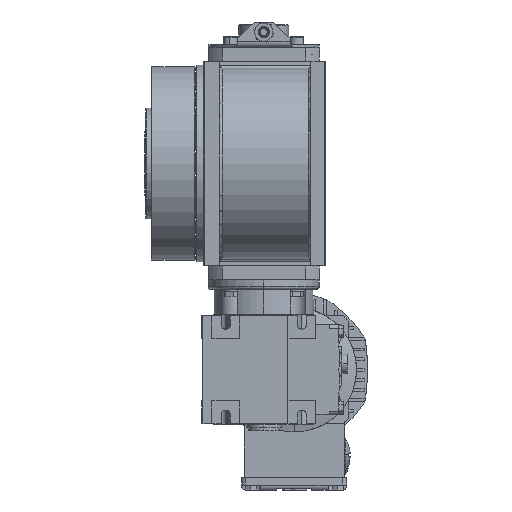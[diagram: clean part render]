
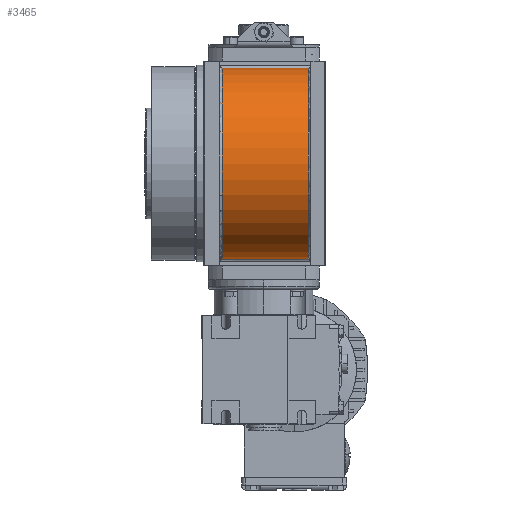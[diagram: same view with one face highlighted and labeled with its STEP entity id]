
A CAD part, left-side view. The second image highlights one B-rep face of the part: STEP entity #3465.
In plain terms, the highlighted cylindrical face has radius 69 mm (diameter 138 mm), a partial arc.
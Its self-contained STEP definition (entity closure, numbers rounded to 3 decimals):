
#2107 = LINE ( 'NONE', #64636, #25515 ) ;
#2427 = DIRECTION ( 'NONE',  ( 0., -1., 0. ) ) ;
#3465 = ADVANCED_FACE ( 'NONE', ( #12617 ), #57834, .T. ) ;
#3887 = EDGE_CURVE ( 'NONE', #22255, #25304, #61269, .T. ) ;
#4184 = ORIENTED_EDGE ( 'NONE', *, *, #65680, .T. ) ;
#4396 = CARTESIAN_POINT ( 'NONE',  ( -3.887, 66., 68.89 ) ) ;
#6186 = EDGE_LOOP ( 'NONE', ( #17285, #51519, #25078, #4184 ) ) ;
#9503 = VERTEX_POINT ( 'NONE', #41780 ) ;
#12617 = FACE_OUTER_BOUND ( 'NONE', #6186, .T. ) ;
#13724 = DIRECTION ( 'NONE',  ( 0., -1., 0. ) ) ;
#14814 = CARTESIAN_POINT ( 'NONE',  ( 0., 66., 0. ) ) ;
#17285 = ORIENTED_EDGE ( 'NONE', *, *, #3887, .T. ) ;
#17984 = AXIS2_PLACEMENT_3D ( 'NONE', #34683, #2427, #40579 ) ;
#20696 = CARTESIAN_POINT ( 'NONE',  ( -3.887, 2., -68.89 ) ) ;
#22091 = VECTOR ( 'NONE', #55520, 1000. ) ;
#22255 = VERTEX_POINT ( 'NONE', #20696 ) ;
#22377 = CARTESIAN_POINT ( 'NONE',  ( -3.887, 64., 68.89 ) ) ;
#25078 = ORIENTED_EDGE ( 'NONE', *, *, #62505, .T. ) ;
#25304 = VERTEX_POINT ( 'NONE', #33983 ) ;
#25515 = VECTOR ( 'NONE', #52149, 1000. ) ;
#27512 = CIRCLE ( 'NONE', #17984, 69. ) ;
#30595 = AXIS2_PLACEMENT_3D ( 'NONE', #34607, #46867, #57207 ) ;
#33983 = CARTESIAN_POINT ( 'NONE',  ( -3.887, 2., 68.89 ) ) ;
#34607 = CARTESIAN_POINT ( 'NONE',  ( 0., 2., 0. ) ) ;
#34683 = CARTESIAN_POINT ( 'NONE',  ( 0., 64., 0. ) ) ;
#38708 = AXIS2_PLACEMENT_3D ( 'NONE', #14814, #13724, #59285 ) ;
#40579 = DIRECTION ( 'NONE',  ( 0., 0., 1. ) ) ;
#41780 = CARTESIAN_POINT ( 'NONE',  ( -3.887, 64., -68.89 ) ) ;
#45354 = VERTEX_POINT ( 'NONE', #22377 ) ;
#46867 = DIRECTION ( 'NONE',  ( 0., 1., 0. ) ) ;
#50001 = LINE ( 'NONE', #4396, #22091 ) ;
#51519 = ORIENTED_EDGE ( 'NONE', *, *, #71301, .T. ) ;
#52149 = DIRECTION ( 'NONE',  ( 0., -1., 0. ) ) ;
#55520 = DIRECTION ( 'NONE',  ( 0., 1., 0. ) ) ;
#57207 = DIRECTION ( 'NONE',  ( 0., 0., 1. ) ) ;
#57834 = CYLINDRICAL_SURFACE ( 'NONE', #38708, 69. ) ;
#59285 = DIRECTION ( 'NONE',  ( 0., 0., -1. ) ) ;
#61269 = CIRCLE ( 'NONE', #30595, 69. ) ;
#62505 = EDGE_CURVE ( 'NONE', #45354, #9503, #27512, .T. ) ;
#64636 = CARTESIAN_POINT ( 'NONE',  ( -3.887, 66., -68.89 ) ) ;
#65680 = EDGE_CURVE ( 'NONE', #9503, #22255, #2107, .T. ) ;
#71301 = EDGE_CURVE ( 'NONE', #25304, #45354, #50001, .T. ) ;
